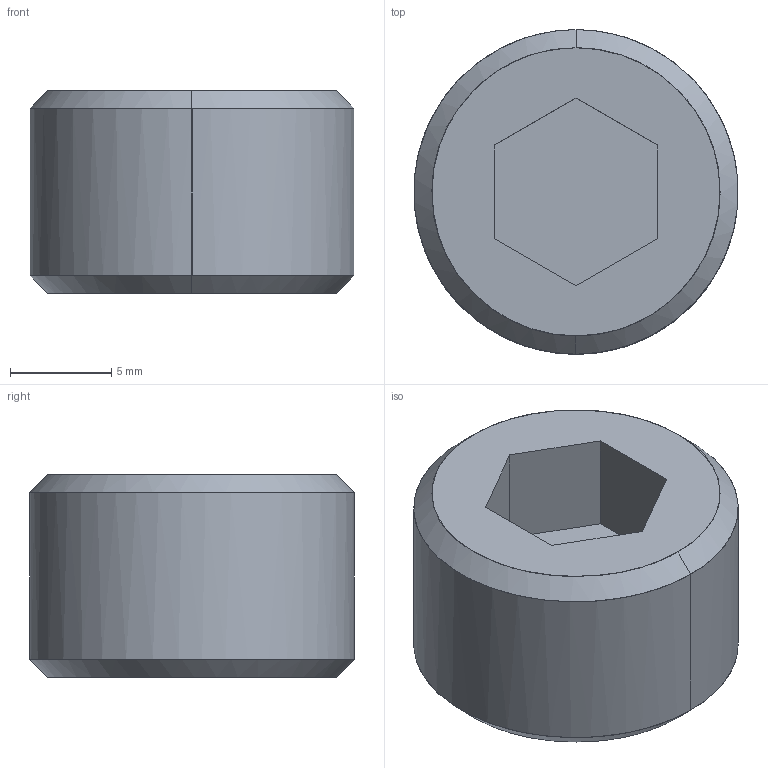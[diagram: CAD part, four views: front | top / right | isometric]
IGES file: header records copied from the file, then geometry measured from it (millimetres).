
Global section: file name: E:\UnigraphicsGraphicData\MISUMI_PRESS-PARTS\IGES\3d_msw16_00512_r00.igs; native system: NX V5.0; preprocessor: UGS NX IGES V5.0; author: MISUMI; date: 20110105.161522; units: millimetre
Bounding box: 15.97 x 16 x 10 mm (x, y, z)
Surface area: 989.3 mm2 (no closed solid volume)
Topology: 0 solids, 0 shells, 15 faces, 76 edges, 76 vertices
Faces by surface type: bspline 15
